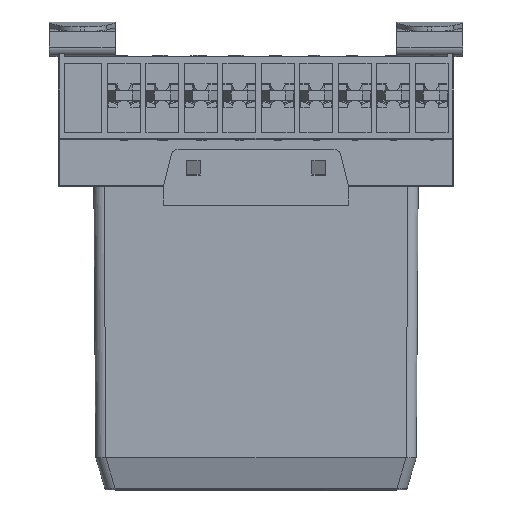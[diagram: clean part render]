
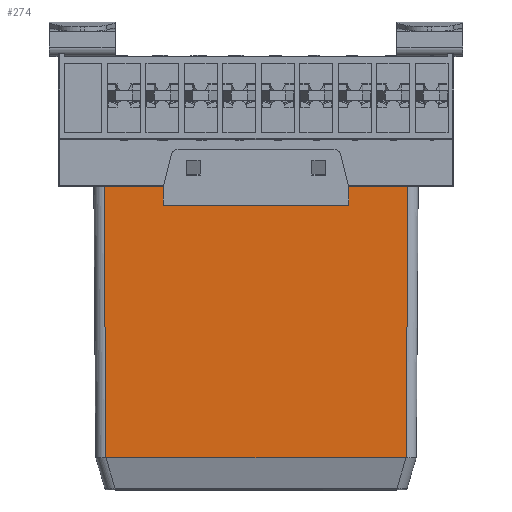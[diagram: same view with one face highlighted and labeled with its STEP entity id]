
A CAD part, top view. The second image highlights one B-rep face of the part: STEP entity #274.
In plain terms, the highlighted planar face has unit normal (0, -0.014, 1).
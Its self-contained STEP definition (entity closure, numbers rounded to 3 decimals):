
#274=ADVANCED_FACE('',(#62877),#62879,.T.);
#62877=FACE_BOUND('',#62878,.T.);
#62878=EDGE_LOOP('',(#122422,#122423,#122424,#122425,#122426,#122427,#122428,#122429));
#62879=PLANE('',#62880);
#62880=AXIS2_PLACEMENT_3D('',#62881,#62882,#62883);
#62881=CARTESIAN_POINT('',(-64.9,-58.63,18.799));
#62882=DIRECTION('',(0.,-0.014,1.));
#62883=DIRECTION('',(1.,0.,0.));
#122422=ORIENTED_EDGE('',*,*,#163251,.F.);
#122423=ORIENTED_EDGE('',*,*,#163266,.T.);
#122424=ORIENTED_EDGE('',*,*,#163267,.F.);
#122425=ORIENTED_EDGE('',*,*,#163268,.F.);
#122426=ORIENTED_EDGE('',*,*,#163269,.F.);
#122427=ORIENTED_EDGE('',*,*,#163270,.F.);
#122428=ORIENTED_EDGE('',*,*,#163271,.F.);
#122429=ORIENTED_EDGE('',*,*,#163272,.F.);
#163251=EDGE_CURVE('',#183217,#183220,#183221,.T.);
#163266=EDGE_CURVE('',#183217,#183241,#183243,.T.);
#163267=EDGE_CURVE('',#183244,#183241,#183245,.T.);
#163268=EDGE_CURVE('',#183246,#183244,#183247,.T.);
#163269=EDGE_CURVE('',#183248,#183246,#183249,.T.);
#163270=EDGE_CURVE('',#183250,#183248,#183251,.T.);
#163271=EDGE_CURVE('',#183252,#183250,#183253,.T.);
#163272=EDGE_CURVE('',#183220,#183252,#183254,.T.);
#183217=VERTEX_POINT('',#216703);
#183220=VERTEX_POINT('',#216725);
#183221=LINE('',#216726,#216727);
#183241=VERTEX_POINT('',#216819);
#183243=LINE('',#216851,#216852);
#183244=VERTEX_POINT('',#216854);
#183245=LINE('',#216855,#216856);
#183246=VERTEX_POINT('',#216858);
#183247=LINE('',#216859,#216860);
#183248=VERTEX_POINT('',#216862);
#183249=LINE('',#216863,#216864);
#183250=VERTEX_POINT('',#216866);
#183251=LINE('',#216867,#216868);
#183252=VERTEX_POINT('',#216870);
#183253=LINE('',#216871,#216872);
#183254=LINE('',#216874,#216875);
#216703=CARTESIAN_POINT('',(-0.1,-58.63,18.799));
#216725=CARTESIAN_POINT('',(-64.9,-58.63,18.799));
#216726=CARTESIAN_POINT('',(-0.1,-58.63,18.799));
#216727=VECTOR('',#216728,1.);
#216728=DIRECTION('',(-1.,0.,0.));
#216819=CARTESIAN_POINT('',(0.3,-0.134,19.599));
#216851=CARTESIAN_POINT('',(-0.1,-58.63,18.799));
#216852=VECTOR('',#216853,1.);
#216853=DIRECTION('',(0.007,1.,0.014));
#216854=CARTESIAN_POINT('',(-12.5,-0.134,19.599));
#216855=CARTESIAN_POINT('',(-12.5,-0.134,19.599));
#216856=VECTOR('',#216857,1.);
#216857=DIRECTION('',(1.,0.,0.));
#216858=CARTESIAN_POINT('',(-12.5,-4.134,19.544));
#216859=CARTESIAN_POINT('',(-12.5,-4.134,19.544));
#216860=VECTOR('',#216861,1.);
#216861=DIRECTION('',(0.,1.,0.014));
#216862=CARTESIAN_POINT('',(-52.5,-4.134,19.544));
#216863=CARTESIAN_POINT('',(-52.5,-4.134,19.544));
#216864=VECTOR('',#216865,1.);
#216865=DIRECTION('',(1.,0.,0.));
#216866=CARTESIAN_POINT('',(-52.5,-0.134,19.599));
#216867=CARTESIAN_POINT('',(-52.5,-0.134,19.599));
#216868=VECTOR('',#216869,1.);
#216869=DIRECTION('',(0.,-1.,-0.014));
#216870=CARTESIAN_POINT('',(-65.3,-0.134,19.599));
#216871=CARTESIAN_POINT('',(-65.3,-0.134,19.599));
#216872=VECTOR('',#216873,1.);
#216873=DIRECTION('',(1.,0.,0.));
#216874=CARTESIAN_POINT('',(-64.9,-58.63,18.799));
#216875=VECTOR('',#216876,1.);
#216876=DIRECTION('',(-0.007,1.,0.014));
